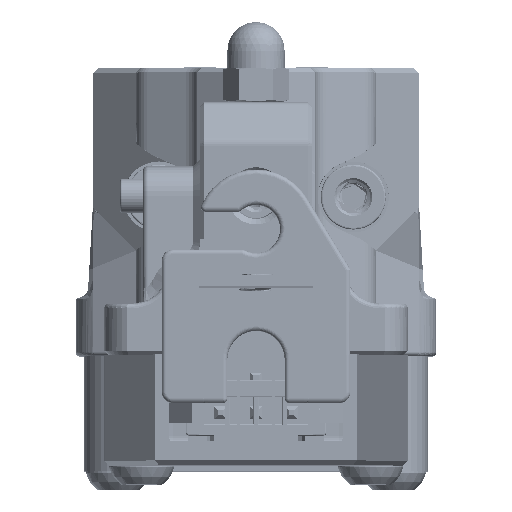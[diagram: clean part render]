
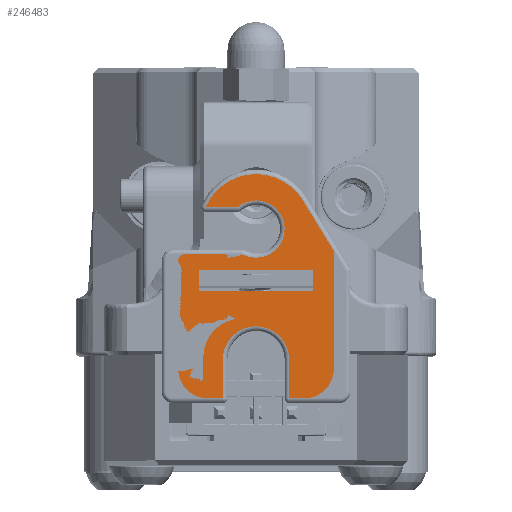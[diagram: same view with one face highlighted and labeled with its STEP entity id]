
A CAD part, top view. The second image highlights one B-rep face of the part: STEP entity #246483.
In plain terms, the highlighted planar face has unit normal (0, 0, 1).
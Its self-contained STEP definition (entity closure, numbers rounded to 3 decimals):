
#5277=FACE_BOUND('',#51131,.T.);
#36066=FACE_OUTER_BOUND('',#51130,.T.);
#51130=EDGE_LOOP('',(#217750,#217751,#217752,#217753,#217754,#217755,#217756,
#217757,#217758,#217759,#217760,#217761,#217762,#217763,#217764));
#51131=EDGE_LOOP('',(#217765,#217766,#217767,#217768));
#66936=LINE('',#1070326,#82780);
#66937=LINE('',#1070337,#82781);
#66947=LINE('',#1070392,#82791);
#66948=LINE('',#1070396,#82792);
#66949=LINE('',#1070400,#82793);
#66950=LINE('',#1070402,#82794);
#66951=LINE('',#1070406,#82795);
#66952=LINE('',#1070410,#82796);
#66953=LINE('',#1070414,#82797);
#66954=LINE('',#1070418,#82798);
#66955=LINE('',#1070420,#82799);
#66956=LINE('',#1070422,#82800);
#66957=LINE('',#1070423,#82801);
#82780=VECTOR('',#319202,10.);
#82781=VECTOR('',#319215,10.);
#82791=VECTOR('',#319263,0.4);
#82792=VECTOR('',#319268,0.4);
#82793=VECTOR('',#319271,10.);
#82794=VECTOR('',#319272,10.);
#82795=VECTOR('',#319275,10.);
#82796=VECTOR('',#319278,10.);
#82797=VECTOR('',#319281,10.);
#82798=VECTOR('',#319284,10.);
#82799=VECTOR('',#319285,10.);
#82800=VECTOR('',#319286,10.);
#82801=VECTOR('',#319287,10.);
#91860=CIRCLE('',#267720,2.9);
#91873=CIRCLE('',#267745,2.6);
#91874=CIRCLE('',#267746,4.8);
#91875=CIRCLE('',#267747,2.5);
#91876=CIRCLE('',#267748,0.6);
#91877=CIRCLE('',#267749,2.6);
#113550=VERTEX_POINT('',#1070320);
#113552=VERTEX_POINT('',#1070324);
#113554=VERTEX_POINT('',#1070329);
#113556=VERTEX_POINT('',#1070335);
#113568=VERTEX_POINT('',#1070391);
#113569=VERTEX_POINT('',#1070395);
#113570=VERTEX_POINT('',#1070397);
#113571=VERTEX_POINT('',#1070399);
#113572=VERTEX_POINT('',#1070401);
#113573=VERTEX_POINT('',#1070403);
#113574=VERTEX_POINT('',#1070405);
#113575=VERTEX_POINT('',#1070407);
#113576=VERTEX_POINT('',#1070409);
#113577=VERTEX_POINT('',#1070411);
#113578=VERTEX_POINT('',#1070413);
#113579=VERTEX_POINT('',#1070416);
#113580=VERTEX_POINT('',#1070417);
#113581=VERTEX_POINT('',#1070419);
#113582=VERTEX_POINT('',#1070421);
#148701=EDGE_CURVE('',#113552,#113550,#66936,.T.);
#148703=EDGE_CURVE('',#113554,#113552,#91860,.T.);
#148706=EDGE_CURVE('',#113556,#113554,#66937,.T.);
#148727=EDGE_CURVE('',#113568,#113550,#66947,.T.);
#148729=EDGE_CURVE('',#113556,#113569,#66948,.T.);
#148730=EDGE_CURVE('',#113570,#113569,#91873,.T.);
#148731=EDGE_CURVE('',#113571,#113570,#66949,.T.);
#148732=EDGE_CURVE('',#113572,#113571,#66950,.T.);
#148733=EDGE_CURVE('',#113573,#113572,#91874,.T.);
#148734=EDGE_CURVE('',#113574,#113573,#66951,.T.);
#148735=EDGE_CURVE('',#113575,#113574,#91875,.T.);
#148736=EDGE_CURVE('',#113576,#113575,#66952,.T.);
#148737=EDGE_CURVE('',#113577,#113576,#91876,.T.);
#148738=EDGE_CURVE('',#113578,#113577,#66953,.T.);
#148739=EDGE_CURVE('',#113568,#113578,#91877,.T.);
#148740=EDGE_CURVE('',#113579,#113580,#66954,.F.);
#148741=EDGE_CURVE('',#113580,#113581,#66955,.F.);
#148742=EDGE_CURVE('',#113581,#113582,#66956,.F.);
#148743=EDGE_CURVE('',#113582,#113579,#66957,.F.);
#217750=ORIENTED_EDGE('',*,*,#148701,.F.);
#217751=ORIENTED_EDGE('',*,*,#148703,.F.);
#217752=ORIENTED_EDGE('',*,*,#148706,.F.);
#217753=ORIENTED_EDGE('',*,*,#148729,.T.);
#217754=ORIENTED_EDGE('',*,*,#148730,.F.);
#217755=ORIENTED_EDGE('',*,*,#148731,.F.);
#217756=ORIENTED_EDGE('',*,*,#148732,.F.);
#217757=ORIENTED_EDGE('',*,*,#148733,.F.);
#217758=ORIENTED_EDGE('',*,*,#148734,.F.);
#217759=ORIENTED_EDGE('',*,*,#148735,.F.);
#217760=ORIENTED_EDGE('',*,*,#148736,.F.);
#217761=ORIENTED_EDGE('',*,*,#148737,.F.);
#217762=ORIENTED_EDGE('',*,*,#148738,.F.);
#217763=ORIENTED_EDGE('',*,*,#148739,.F.);
#217764=ORIENTED_EDGE('',*,*,#148727,.T.);
#217765=ORIENTED_EDGE('',*,*,#148740,.T.);
#217766=ORIENTED_EDGE('',*,*,#148741,.T.);
#217767=ORIENTED_EDGE('',*,*,#148742,.T.);
#217768=ORIENTED_EDGE('',*,*,#148743,.T.);
#233592=PLANE('',#267744);
#246483=ADVANCED_FACE('',(#36066,#5277),#233592,.T.);
#267720=AXIS2_PLACEMENT_3D('',#1070331,#319207,#319208);
#267744=AXIS2_PLACEMENT_3D('',#1070394,#319266,#319267);
#267745=AXIS2_PLACEMENT_3D('',#1070398,#319269,#319270);
#267746=AXIS2_PLACEMENT_3D('',#1070404,#319273,#319274);
#267747=AXIS2_PLACEMENT_3D('',#1070408,#319276,#319277);
#267748=AXIS2_PLACEMENT_3D('',#1070412,#319279,#319280);
#267749=AXIS2_PLACEMENT_3D('',#1070415,#319282,#319283);
#319202=DIRECTION('',(0.,-1.,0.));
#319207=DIRECTION('center_axis',(0.,0.,
1.));
#319208=DIRECTION('ref_axis',(0.,1.,0.));
#319215=DIRECTION('',(0.,1.,0.));
#319263=DIRECTION('',(1.,0.,0.));
#319266=DIRECTION('center_axis',(0.,0.,
1.));
#319267=DIRECTION('ref_axis',(0.,1.,0.));
#319268=DIRECTION('',(1.,0.,0.));
#319269=DIRECTION('center_axis',(0.,0.,
-1.));
#319270=DIRECTION('ref_axis',(0.707,-0.707,0.));
#319271=DIRECTION('',(0.,-1.,0.));
#319272=DIRECTION('',(0.522,-0.853,0.));
#319273=DIRECTION('center_axis',(0.,0.,
-1.));
#319274=DIRECTION('ref_axis',(-0.071,0.997,0.));
#319275=DIRECTION('',(-1.,0.,0.));
#319276=DIRECTION('center_axis',(0.,0.,
1.));
#319277=DIRECTION('ref_axis',(0.994,0.106,0.));
#319278=DIRECTION('',(1.,0.,0.));
#319279=DIRECTION('center_axis',(0.,0.,
-1.));
#319280=DIRECTION('ref_axis',(-0.707,0.707,0.));
#319281=DIRECTION('',(0.,1.,0.));
#319282=DIRECTION('center_axis',(0.,0.,
-1.));
#319283=DIRECTION('ref_axis',(-0.707,-0.707,0.));
#319284=DIRECTION('',(1.,0.,0.));
#319285=DIRECTION('',(0.,-1.,0.));
#319286=DIRECTION('',(-1.,0.,0.));
#319287=DIRECTION('',(0.,1.,0.));
#1070320=CARTESIAN_POINT('',(-0.1,72.211,152.999));
#1070324=CARTESIAN_POINT('',(-0.1,75.611,152.999));
#1070326=CARTESIAN_POINT('',(-0.1,78.061,152.999));
#1070329=CARTESIAN_POINT('',(5.7,75.611,152.999));
#1070331=CARTESIAN_POINT('Origin',(2.8,75.611,152.999));
#1070335=CARTESIAN_POINT('',(5.7,72.211,152.999));
#1070337=CARTESIAN_POINT('',(5.7,75.612,152.999));
#1070391=CARTESIAN_POINT('',(-1.4,72.211,152.999));
#1070392=CARTESIAN_POINT('',(0.722,72.211,152.999));
#1070394=CARTESIAN_POINT('Origin',(2.843,80.511,152.999));
#1070395=CARTESIAN_POINT('',(7.,72.211,152.999));
#1070396=CARTESIAN_POINT('',(0.722,72.211,152.999));
#1070397=CARTESIAN_POINT('',(9.6,74.811,152.999));
#1070398=CARTESIAN_POINT('Origin',(7.,74.811,152.999));
#1070399=CARTESIAN_POINT('',(9.6,85.098,152.999));
#1070400=CARTESIAN_POINT('',(9.6,80.161,152.999));
#1070401=CARTESIAN_POINT('',(6.893,89.518,152.999));
#1070402=CARTESIAN_POINT('',(9.729,84.887,152.999));
#1070403=CARTESIAN_POINT('',(-1.608,88.911,152.999));
#1070404=CARTESIAN_POINT('Origin',(2.8,87.011,152.999));
#1070405=CARTESIAN_POINT('',(1.175,88.911,152.999));
#1070406=CARTESIAN_POINT('',(0.222,88.911,152.999));
#1070407=CARTESIAN_POINT('',(1.613,84.811,152.999));
#1070408=CARTESIAN_POINT('Origin',(2.8,87.011,152.999));
#1070409=CARTESIAN_POINT('',(-3.4,84.811,152.999));
#1070410=CARTESIAN_POINT('',(2.189,84.811,152.999));
#1070411=CARTESIAN_POINT('',(-4.,84.211,152.999));
#1070412=CARTESIAN_POINT('Origin',(-3.4,84.211,152.999));
#1070413=CARTESIAN_POINT('',(-4.,74.811,152.999));
#1070414=CARTESIAN_POINT('',(-4.,82.861,152.999));
#1070415=CARTESIAN_POINT('Origin',(-1.4,74.811,152.999));
#1070416=CARTESIAN_POINT('',(7.8,81.611,152.999));
#1070417=CARTESIAN_POINT('',(-2.2,81.611,152.999));
#1070418=CARTESIAN_POINT('',(5.422,81.611,152.999));
#1070419=CARTESIAN_POINT('',(-2.2,83.411,152.999));
#1070420=CARTESIAN_POINT('',(-2.2,81.161,152.999));
#1070421=CARTESIAN_POINT('',(7.8,83.411,152.999));
#1070422=CARTESIAN_POINT('',(0.222,83.411,152.999));
#1070423=CARTESIAN_POINT('',(7.8,81.861,152.999));
